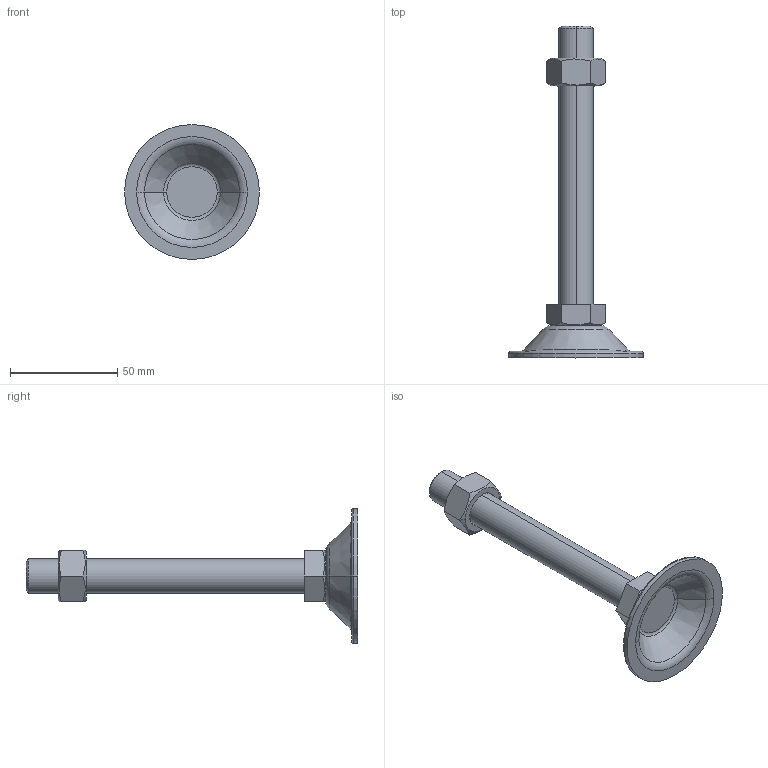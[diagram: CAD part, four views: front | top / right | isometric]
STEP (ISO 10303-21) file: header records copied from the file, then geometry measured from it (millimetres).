
FILE_DESCRIPTION (( 'STEP AP214' ), '1' );
FILE_NAME ('BL63-M16-130.step', '2021-01-06T05:38:50', ( '' ), ( '' ), 'SwSTEP 2.0', 'SolidWorks 2019', '' );
FILE_SCHEMA (( 'AUTOMOTIVE_DESIGN' ));
Length unit declared in the file: millimetre
Products named in the file (1): BL63-M16-130
Bounding box: 63 x 155 x 63 mm (x, y, z)
Volume: 45894.6 mm3; surface area: 18401.1 mm2
Topology: 3 solids, 3 shells, 53 faces, 110 edges, 66 vertices
Faces by surface type: plane 21, cone 16, torus 10, cylinder 6
Entity records: 1618 total; most frequent: CARTESIAN_POINT 428, DIRECTION 252, ORIENTED_EDGE 220, EDGE_CURVE 110, AXIS2_PLACEMENT_3D 106, VERTEX_POINT 66, EDGE_LOOP 58, ADVANCED_FACE 53
